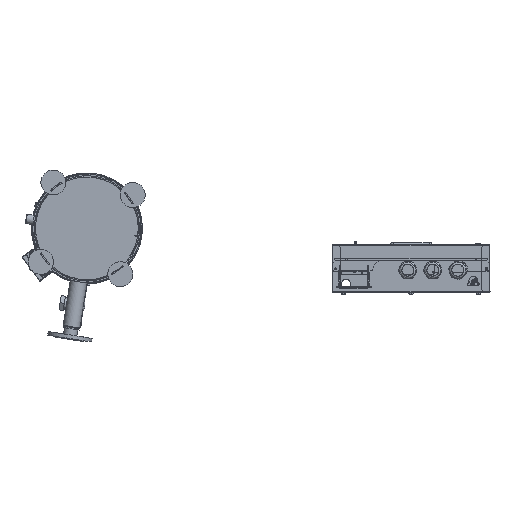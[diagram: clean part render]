
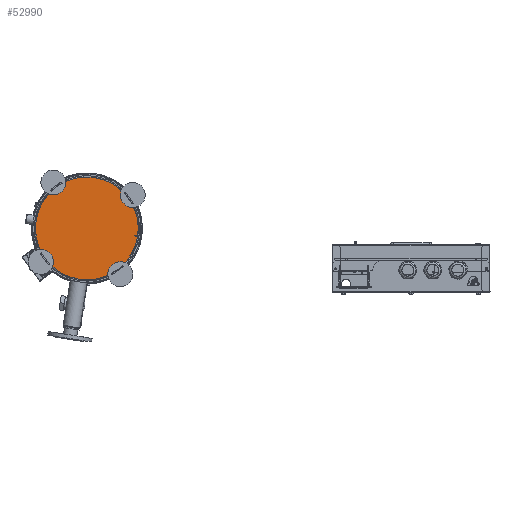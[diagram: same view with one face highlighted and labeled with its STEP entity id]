
A CAD part, front view. The second image highlights one B-rep face of the part: STEP entity #52990.
In plain terms, the highlighted planar face has unit normal (0, -1, 0).
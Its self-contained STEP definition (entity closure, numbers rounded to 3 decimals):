
#2225=PLANE('',#57384);
#6367=LINE('',#86488,#10927);
#6371=LINE('',#86496,#10931);
#10927=VECTOR('',#68745,10.);
#10931=VECTOR('',#68751,10.);
#14337=FACE_OUTER_BOUND('',#17265,.T.);
#17265=EDGE_LOOP('',(#43164,#43165,#43166));
#20103=CIRCLE('',#57385,185.);
#24556=VERTEX_POINT('',#86486);
#24557=VERTEX_POINT('',#86487);
#24560=VERTEX_POINT('',#86495);
#31606=EDGE_CURVE('',#24556,#24557,#6367,.T.);
#31610=EDGE_CURVE('',#24560,#24556,#6371,.T.);
#31613=EDGE_CURVE('',#24557,#24560,#20103,.T.);
#43164=ORIENTED_EDGE('',*,*,#31610,.T.);
#43165=ORIENTED_EDGE('',*,*,#31606,.T.);
#43166=ORIENTED_EDGE('',*,*,#31613,.T.);
#52990=ADVANCED_FACE('',(#14337),#2225,.T.);
#57384=AXIS2_PLACEMENT_3D('',#86500,#68754,#68755);
#57385=AXIS2_PLACEMENT_3D('',#86501,#68756,#68757);
#68745=DIRECTION('',(0.997,0.,0.082));
#68751=DIRECTION('',(-0.924,0.,0.383));
#68754=DIRECTION('center_axis',(0.,-1.,0.));
#68755=DIRECTION('ref_axis',(0.155,0.,0.988));
#68756=DIRECTION('center_axis',(0.,-1.,0.));
#68757=DIRECTION('ref_axis',(0.155,0.,0.988));
#86486=CARTESIAN_POINT('',(-248.242,-508.458,-379.849));
#86487=CARTESIAN_POINT('',(-234.938,-508.458,-378.754));
#86488=CARTESIAN_POINT('',(-324.888,-508.458,-386.157));
#86495=CARTESIAN_POINT('',(-235.913,-508.458,-384.967));
#86496=CARTESIAN_POINT('',(-325.434,-508.458,-347.802));
#86500=CARTESIAN_POINT('Origin',(-418.161,-508.458,-353.178));
#86501=CARTESIAN_POINT('Origin',(-418.161,-508.458,-353.178));
